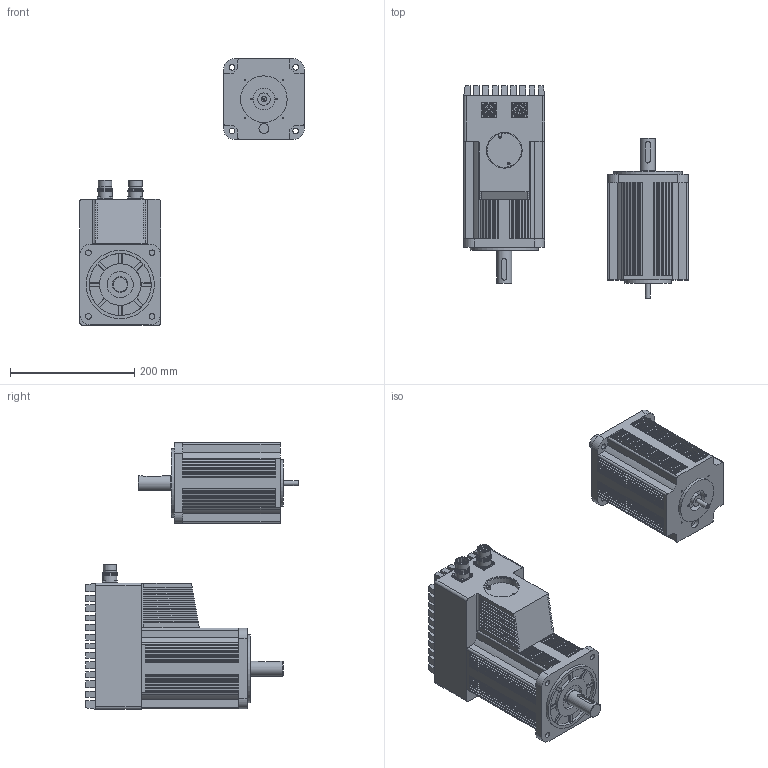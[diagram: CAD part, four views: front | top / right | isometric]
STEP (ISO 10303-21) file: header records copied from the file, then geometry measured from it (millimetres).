
FILE_DESCRIPTION( ( 'Unknown' ), '1' );
FILE_NAME( 'K:/JVL/MACxxx/MAC1500_3000/CAD internet tegninger/STEP/Step/MAC3000-D1.stp', 'Unknown', ( 'Unknown' ), ( 'Unknown' ), 'PSStep 11.0', 'Unknown', ' ' );
FILE_SCHEMA( ( 'AUTOMOTIVE_DESIGN { 1 0 10303 214 1 1 1 1 }' ) );
Length unit declared in the file: millimetre
Products named in the file (3): Assem1; D1 D4 hus uden motor; MSE3K0-00001 MAC3000D2MOTOR
Bounding box: 361.74 x 342.5 x 429.36 mm (x, y, z)
Volume: 10235476.9 mm3; surface area: 872070.2 mm2
Topology: 4 solids, 4 shells, 2438 faces, 5934 edges, 3938 vertices
Faces by surface type: plane 2064, cylinder 360, sphere 10, torus 4
Full cylindrical faces by diameter (mm): 2 x20, 2.013 x4, 2.459 x12, 3.242 x2, 4.5 x16, 4.6 x4, 8 x2, 9 x8, 10 x2, 16 x2, 18 x2, 19.8 x2, 20 x6, 21.6 x4, 22.6 x4, 22.9 x4, 23.3 x4, 24 x2, 24.5 x4, 25 x2, 35 x2, 42 x2, 55.1 x2, 57.6 x2, 67 x2, 75 x2, 100 x2, 110 x2
Entity records: 44638 total; most frequent: CARTESIAN_POINT 6256, ORIENTED_EDGE 5738, DIRECTION 5644, EDGE_CURVE 2869, LINE 2470, VECTOR 2470, VERTEX_POINT 1939, AXIS2_PLACEMENT_3D 1587
